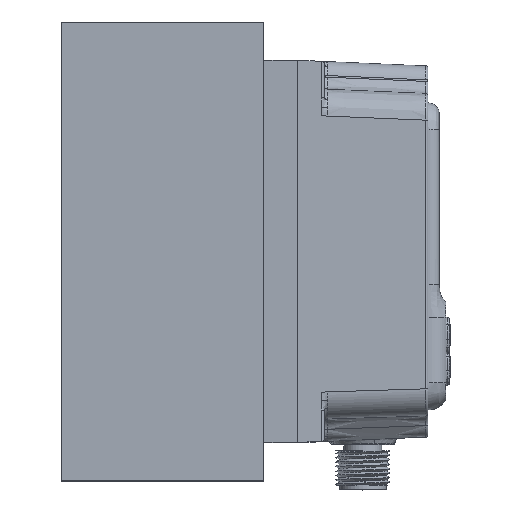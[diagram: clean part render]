
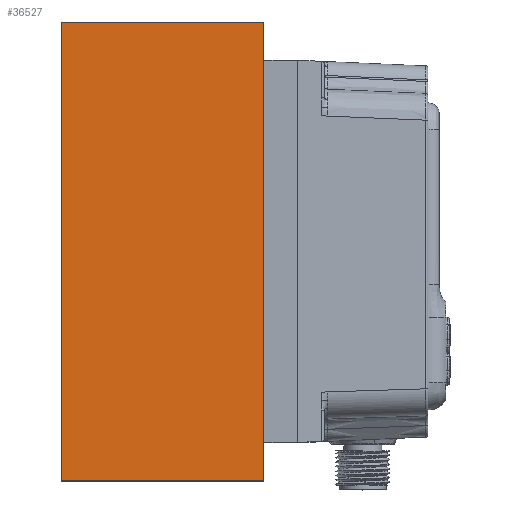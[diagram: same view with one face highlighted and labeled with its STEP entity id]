
A CAD part, top view. The second image highlights one B-rep face of the part: STEP entity #36527.
In plain terms, the highlighted planar face has unit normal (0, 0, 1).
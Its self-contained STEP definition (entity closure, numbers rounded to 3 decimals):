
#2662 = LINE ( 'NONE', #3203, #4846 ) ;
#3186 = VERTEX_POINT ( 'NONE', #11362 ) ;
#3203 = CARTESIAN_POINT ( 'NONE',  ( 5., -93.5, 2.5 ) ) ;
#3501 = CARTESIAN_POINT ( 'NONE',  ( 5., -93.5, 2.5 ) ) ;
#4846 = VECTOR ( 'NONE', #36251, 1000. ) ;
#6726 = PLANE ( 'NONE',  #37485 ) ;
#6808 = VERTEX_POINT ( 'NONE', #22258 ) ;
#6993 = DIRECTION ( 'NONE',  ( 0., 0., 1. ) ) ;
#10316 = CARTESIAN_POINT ( 'NONE',  ( 5., -93.5, 2.5 ) ) ;
#11257 = CARTESIAN_POINT ( 'NONE',  ( 5., -93.5, 2.5 ) ) ;
#11362 = CARTESIAN_POINT ( 'NONE',  ( -40., -93.5, 2.5 ) ) ;
#14803 = EDGE_CURVE ( 'NONE', #6808, #31079, #24595, .T. ) ;
#19113 = FACE_OUTER_BOUND ( 'NONE', #52661, .T. ) ;
#20292 = DIRECTION ( 'NONE',  ( 0., 1., 0. ) ) ;
#20581 = ORIENTED_EDGE ( 'NONE', *, *, #38600, .F. ) ;
#22258 = CARTESIAN_POINT ( 'NONE',  ( 5., 8.5, 2.5 ) ) ;
#22375 = VECTOR ( 'NONE', #20292, 1000. ) ;
#23787 = DIRECTION ( 'NONE',  ( 0., -1., 0. ) ) ;
#24595 = LINE ( 'NONE', #46348, #31401 ) ;
#29136 = EDGE_CURVE ( 'NONE', #30073, #3186, #2662, .T. ) ;
#30073 = VERTEX_POINT ( 'NONE', #11257 ) ;
#31079 = VERTEX_POINT ( 'NONE', #47681 ) ;
#31136 = ORIENTED_EDGE ( 'NONE', *, *, #14803, .T. ) ;
#31401 = VECTOR ( 'NONE', #33966, 1000. ) ;
#32843 = CARTESIAN_POINT ( 'NONE',  ( -40., -93.5, 2.5 ) ) ;
#33966 = DIRECTION ( 'NONE',  ( -1., 0., 0. ) ) ;
#36251 = DIRECTION ( 'NONE',  ( -1., 0., 0. ) ) ;
#36527 = ADVANCED_FACE ( 'NONE', ( #19113 ), #6726, .T. ) ;
#37485 = AXIS2_PLACEMENT_3D ( 'NONE', #10316, #6993, #23787 ) ;
#38600 = EDGE_CURVE ( 'NONE', #3186, #31079, #54027, .T. ) ;
#41216 = LINE ( 'NONE', #3501, #22375 ) ;
#44404 = DIRECTION ( 'NONE',  ( 0., 1., 0. ) ) ;
#45011 = ORIENTED_EDGE ( 'NONE', *, *, #45321, .T. ) ;
#45321 = EDGE_CURVE ( 'NONE', #30073, #6808, #41216, .T. ) ;
#45366 = ORIENTED_EDGE ( 'NONE', *, *, #29136, .F. ) ;
#46348 = CARTESIAN_POINT ( 'NONE',  ( 5., 8.5, 2.5 ) ) ;
#47681 = CARTESIAN_POINT ( 'NONE',  ( -40., 8.5, 2.5 ) ) ;
#51306 = VECTOR ( 'NONE', #44404, 1000. ) ;
#52661 = EDGE_LOOP ( 'NONE', ( #20581, #45366, #45011, #31136 ) ) ;
#54027 = LINE ( 'NONE', #32843, #51306 ) ;
